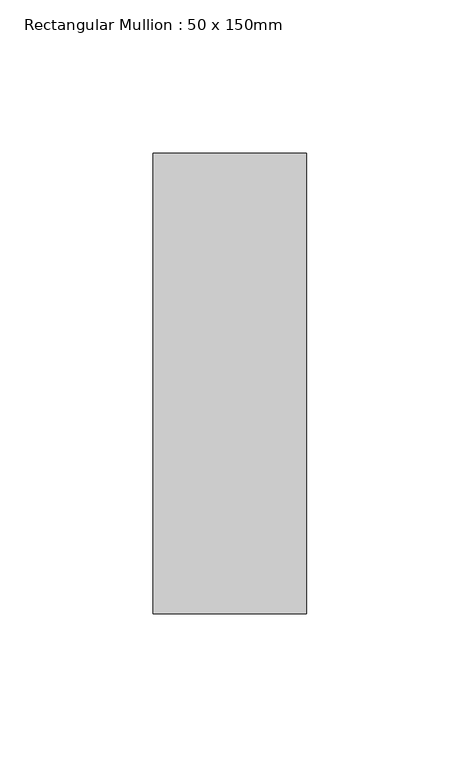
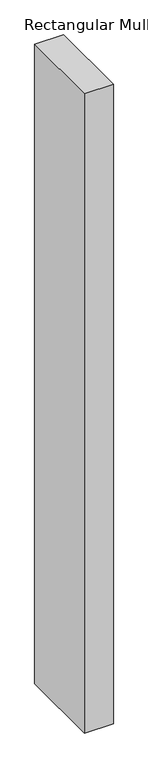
"""IFC4 building model written with IfcOpenShell, lengths in millimetres: member geometry, Rectangular Mullion : 50 x 150mm."""

from ifc_helpers import new_model, si_unit, frame, origin, place, context, project, spatial, polyline, outline, extrude, source, transform, mapped, element, save


def rectangular_mullion_50_x_150mm_268a5786(model_context):
    return source(origin(), model_context, "Body", "SweptSolid", [
        extrude(outline(polyline([(0.0, 75.0), (0.0, -75.0), (-50.0, -75.0), (-50.0, 75.0), (0.0, 75.0)])), frame((0.0, 0.0, -1173.2453384), z_axis=(0.0, 0.0, 1.0), x_axis=(1.0, 0.0, 0.0)), (0.0, 0.0, 1.0), 1173.2453384),
    ])


if __name__ == "__main__":
    model = new_model("IFC4")
    model_context = context("Model", 3, world=origin())
    ifc_project = project(units=[si_unit("LENGTHUNIT", "METRE", prefix="MILLI")], contexts=[model_context])
    site = spatial("IfcSite", under=ifc_project)
    building = spatial("IfcBuilding", under=site)
    placement = place(None, origin())
    rectangular_mullion_50_x_150mm_shape = rectangular_mullion_50_x_150mm_268a5786(model_context)
    element("IfcMember", 1, ObjectType="Rectangular Mullion : 50 x 150mm", at=placement, inside=building, context=model_context, shape_type="MappedRepresentation", body=[
        mapped(rectangular_mullion_50_x_150mm_shape, transform((0.0, 0.0, 0.0), x_axis=(1.0, 0.0, 0.0), y_axis=(0.0, 1.0, 0.0), z_axis=(0.0, 0.0, 1.0))),
    ])
    save(model, "model.ifc")
